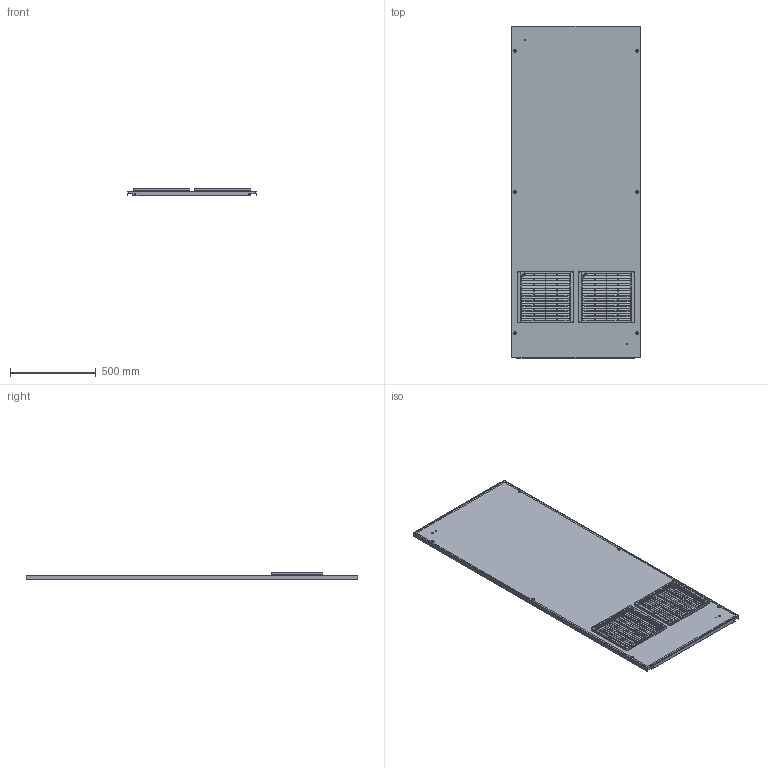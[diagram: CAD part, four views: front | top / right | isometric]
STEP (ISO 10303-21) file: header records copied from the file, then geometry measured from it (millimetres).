
FILE_DESCRIPTION (( 'STEP AP203' ), '1' );
FILE_NAME ('pss208fpg.STEP', '2013-10-16T10:56:23', ( '' ), ( '' ), 'SwSTEP 2.0', 'SolidWorks 2010', '' );
FILE_SCHEMA (( 'CONFIG_CONTROL_DESIGN' ));
Products named in the file (14): 87741497_as assembled; 99401413_99401413; 99401314_99401314; 99401019_SL-PHMS 0.164-32x0.5x0.5-N; 87743886; 28156003; 87555494; 89056928_87953199; 87931368_SLEEVE; 87931527_87931527; 60100041_60100041; 87792622_87792622; 89056927_89048133; pss208fpg
Assembly tree (39 placements, depth 4):
  pss208fpg
    99401413_99401413  x8
    99401019_SL-PHMS 0.164-32x0.5x0.5-N  x8
    87743886  x2
    99401314_99401314  x8
    87555494  x2
    87741497_as assembled  x2
    28156003  x2
    89056927_89048133
      89056928_87953199
      60100041_60100041  x2
        87931368_SLEEVE
        87931527_87931527
      87792622_87792622
Bounding box: 753.4 x 1939.02 x 43.43 mm (x, y, z)
Volume: 5028851.8 mm3; surface area: 4364098.8 mm2
Topology: 44 solids, 44 shells, 4331 faces, 12344 edges, 8114 vertices
Faces by surface type: plane 2689, cylinder 1326, cone 196, torus 64, bspline 48, sphere 8
Entity records: 80850 total; most frequent: CARTESIAN_POINT 23927, ORIENTED_EDGE 11538, DIRECTION 11031, EDGE_CURVE 5769, VECTOR 4279, LINE 4279, VERTEX_POINT 3799, AXIS2_PLACEMENT_3D 3376
